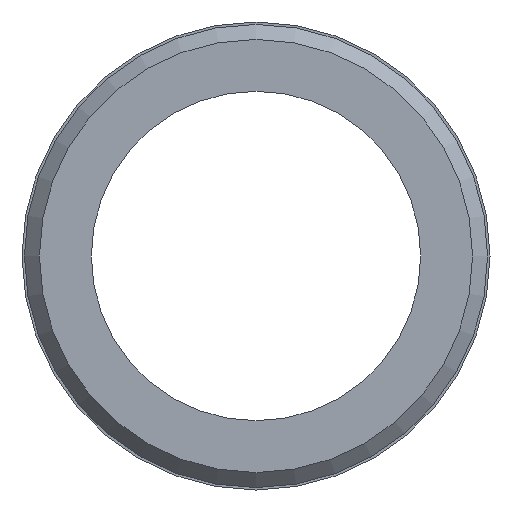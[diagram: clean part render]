
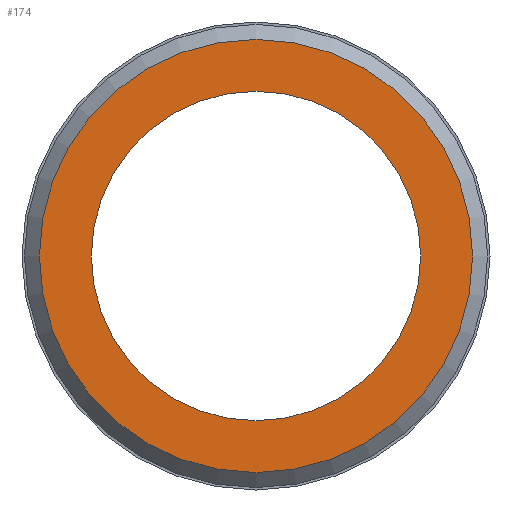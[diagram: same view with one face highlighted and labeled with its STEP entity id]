
A CAD part, front view. The second image highlights one B-rep face of the part: STEP entity #174.
In plain terms, the highlighted planar face has unit normal (0, -1, 0).
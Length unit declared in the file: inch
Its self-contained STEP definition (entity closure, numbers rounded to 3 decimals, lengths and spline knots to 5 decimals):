
#16=FACE_BOUND('',#41,.T.);
#20=PLANE('',#202);
#30=FACE_OUTER_BOUND('',#40,.T.);
#40=EDGE_LOOP('',(#133));
#41=EDGE_LOOP('',(#134,#135));
#62=CIRCLE('',#197,0.261);
#66=CIRCLE('',#203,0.1985);
#67=CIRCLE('',#204,0.1985);
#81=VERTEX_POINT('',#292);
#85=VERTEX_POINT('',#304);
#86=VERTEX_POINT('',#305);
#99=EDGE_CURVE('',#81,#81,#62,.T.);
#105=EDGE_CURVE('',#85,#86,#66,.T.);
#106=EDGE_CURVE('',#86,#85,#67,.T.);
#133=ORIENTED_EDGE('',*,*,#99,.F.);
#134=ORIENTED_EDGE('',*,*,#105,.F.);
#135=ORIENTED_EDGE('',*,*,#106,.F.);
#174=ADVANCED_FACE('',(#30,#16),#20,.T.);
#197=AXIS2_PLACEMENT_3D('',#293,#229,#230);
#202=AXIS2_PLACEMENT_3D('',#303,#241,#242);
#203=AXIS2_PLACEMENT_3D('',#306,#243,#244);
#204=AXIS2_PLACEMENT_3D('',#307,#245,#246);
#229=DIRECTION('center_axis',(0.,1.,0.));
#230=DIRECTION('ref_axis',(0.,0.,1.));
#241=DIRECTION('center_axis',(0.,-1.,0.));
#242=DIRECTION('ref_axis',(0.,0.,-1.));
#243=DIRECTION('center_axis',(0.,-1.,0.));
#244=DIRECTION('ref_axis',(1.,0.,0.));
#245=DIRECTION('center_axis',(0.,-1.,0.));
#246=DIRECTION('ref_axis',(1.,0.,0.));
#292=CARTESIAN_POINT('',(0.,0.,-0.261));
#293=CARTESIAN_POINT('Origin',(0.,0.,0.));
#303=CARTESIAN_POINT('Origin',(0.,0.,-0.1985));
#304=CARTESIAN_POINT('',(0.,0.,-0.1985));
#305=CARTESIAN_POINT('',(0.,0.,0.1985));
#306=CARTESIAN_POINT('Origin',(0.,0.,0.));
#307=CARTESIAN_POINT('Origin',(0.,0.,0.));
